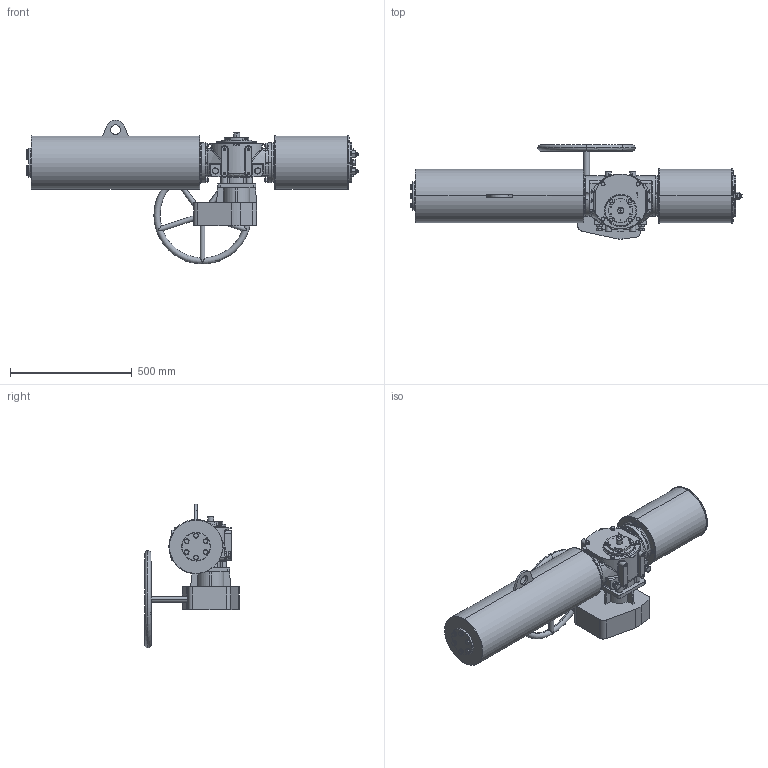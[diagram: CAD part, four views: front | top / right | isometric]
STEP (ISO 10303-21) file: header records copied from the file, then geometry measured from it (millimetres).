
FILE_DESCRIPTION (( 'STEP AP203' ), '1' );
FILE_NAME ('VTS1-200-SR-MW-FO.STEP', '2023-01-01T07:20:15', ( '' ), ( '' ), 'SwSTEP 2.0', 'SolidWorks 2020', '' );
FILE_SCHEMA (( 'CONFIG_CONTROL_DESIGN' ));
Length unit declared in the file: millimetre
Products named in the file (1): VTS1-200-SR-MW-FO
Bounding box: 1365.78 x 387.47 x 592 mm (x, y, z)
Volume: 53321654.1 mm3; surface area: 1873298.9 mm2
Topology: 9 solids, 12 shells, 1994 faces, 5301 edges, 3392 vertices
Faces by surface type: plane 785, cylinder 607, cone 399, bspline 199, torus 4
Entity records: 91513 total; most frequent: CARTESIAN_POINT 45478, ORIENTED_EDGE 10470, DIRECTION 8335, EDGE_CURVE 5235, VERTEX_POINT 3392, AXIS2_PLACEMENT_3D 3146, EDGE_LOOP 2197, VECTOR 2043
